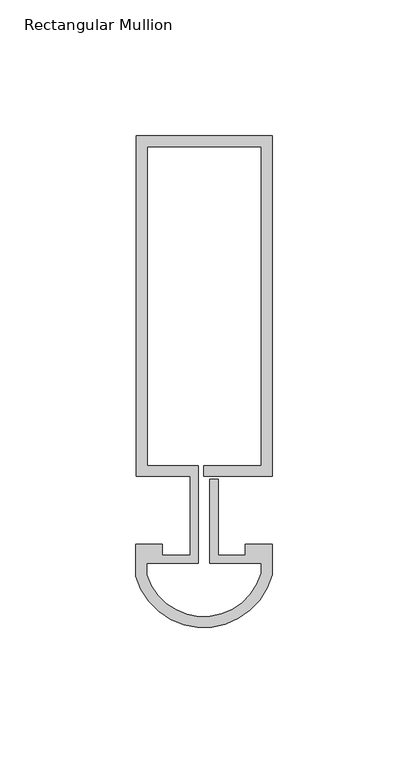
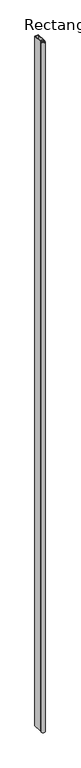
"""IFC4 building model written with IfcOpenShell, lengths in millimetres: member geometry, Rectangular Mullion : Reynaers_CW-50_Mullion-Transom_Vertical_125.5mm_Facecap-07."""

from ifc_helpers import new_model, si_unit, point, frame, frame_2d, origin, place, context, project, spatial, polyline, circle_curve, trimmed, segment, composite_curve, outline, extrude, source, transform, mapped, element, save


def rectangular_mullion_3a1c682f(model_context):
    return source(origin(), model_context, "Body", "SweptSolid", [
        extrude(outline(composite_curve([segment(polyline([(-24.8004059, 138.0), (25.1995941, 138.0), (25.1995941, 12.5), (0.0, 12.5), (0.0, 16.5), (21.1995941, 16.5), (21.1995941, 134.0), (-20.8004059, 134.0), (-20.8004059, 16.5), (-1.9004059, 16.5), (-1.9004059, -19.5), (-20.994845, -19.5), (-20.994845, -23.684232)]), True, "CONTINUOUS"), segment(trimmed(circle_curve(frame_2d((0.0217873, -17.1383151)), 22.0124479), [point((-20.994845, -23.684232))], [point((21.1995941, -23.1423436))], True, "CARTESIAN"), True, "CONTINUOUS"), segment(polyline([(21.1995941, -23.1423436), (21.1995941, -19.5), (2.2995941, -19.5), (2.2995941, 11.5), (5.2995941, 11.5), (5.2995941, -16.5), (15.2996495, -16.5), (15.2996495, -12.5), (25.1995941, -12.5), (25.1995941, -23.6747887)]), True, "CONTINUOUS"), segment(trimmed(circle_curve(frame_2d((0.0217873, -17.1383151)), 26.0124479), [point((25.1995941, -23.6747887))], [point((-24.994845, -24.2668179))], False, "CARTESIAN"), True, "CONTINUOUS"), segment(polyline([(-24.994845, -24.2668179), (-24.994845, -12.5), (-15.2996495, -12.5), (-15.2996495, -16.5), (-4.9004059, -16.5), (-4.9004059, 12.5), (-24.8004059, 12.5), (-24.8004059, 138.0)]), True, "CONTINUOUS")], self_intersect=False)), frame((0.0, 0.0, -10400.0), z_axis=(0.0, 0.0, 1.0), x_axis=(1.0, 0.0, 0.0)), (0.0, 0.0, 1.0), 10400.0),
    ])


if __name__ == "__main__":
    model = new_model("IFC4")
    model_context = context("Model", 3, world=origin())
    ifc_project = project(units=[si_unit("LENGTHUNIT", "METRE", prefix="MILLI")], contexts=[model_context])
    site = spatial("IfcSite", under=ifc_project)
    building = spatial("IfcBuilding", under=site)
    placement = place(None, origin())
    rectangular_mullion_shape = rectangular_mullion_3a1c682f(model_context)
    element("IfcMember", 1, ObjectType="Rectangular Mullion : Reynaers_CW-50_Mullion-Transom_Vertical_125.5mm_Facecap-07", at=placement, inside=building, context=model_context, shape_type="MappedRepresentation", body=[
        mapped(rectangular_mullion_shape, transform((0.0, 0.0, 0.0), x_axis=(1.0, 0.0, 0.0), y_axis=(0.0, 1.0, 0.0), z_axis=(0.0, 0.0, 1.0))),
    ])
    save(model, "model.ifc")
